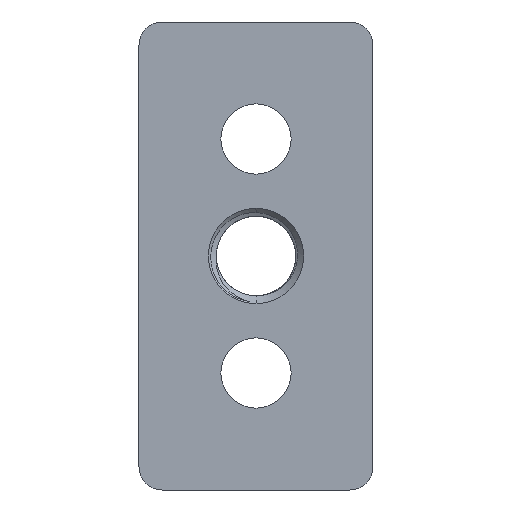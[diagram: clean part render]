
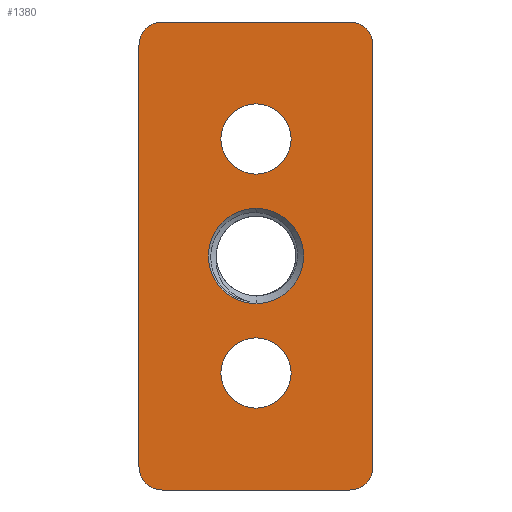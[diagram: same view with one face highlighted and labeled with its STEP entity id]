
A CAD part, front view. The second image highlights one B-rep face of the part: STEP entity #1380.
In plain terms, the highlighted planar face has unit normal (0, -1, 0).
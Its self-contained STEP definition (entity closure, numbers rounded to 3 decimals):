
#52 = CARTESIAN_POINT ( 'NONE',  ( 15., 4., -49.5 ) ) ;
#79 = DIRECTION ( 'NONE',  ( 0., 0., 1. ) ) ;
#310 = CIRCLE ( 'NONE', #1420, 4.5 ) ;
#355 = CARTESIAN_POINT ( 'NONE',  ( 27., 4., -3. ) ) ;
#378 = DIRECTION ( 'NONE',  ( 0., -1., 0. ) ) ;
#391 = VERTEX_POINT ( 'NONE', #4415 ) ;
#402 = PLANE ( 'NONE',  #2009 ) ;
#403 = VERTEX_POINT ( 'NONE', #2282 ) ;
#424 = EDGE_LOOP ( 'NONE', ( #444, #1118 ) ) ;
#444 = ORIENTED_EDGE ( 'NONE', *, *, #782, .T. ) ;
#494 = DIRECTION ( 'NONE',  ( 0., 0., -1. ) ) ;
#505 = CARTESIAN_POINT ( 'NONE',  ( 15., 4., -36.1 ) ) ;
#507 = CARTESIAN_POINT ( 'NONE',  ( 27., 4., -57. ) ) ;
#509 = CARTESIAN_POINT ( 'NONE',  ( 3., 4., -3. ) ) ;
#550 = DIRECTION ( 'NONE',  ( 0., 0., 1. ) ) ;
#582 = ORIENTED_EDGE ( 'NONE', *, *, #1194, .T. ) ;
#669 = CARTESIAN_POINT ( 'NONE',  ( 15., 4., -15. ) ) ;
#728 = DIRECTION ( 'NONE',  ( -1., 0., 0. ) ) ;
#772 = FACE_OUTER_BOUND ( 'NONE', #1529, .T. ) ;
#782 = EDGE_CURVE ( 'NONE', #2196, #1719, #975, .T. ) ;
#866 = VERTEX_POINT ( 'NONE', #1847 ) ;
#868 = DIRECTION ( 'NONE',  ( 0., 0., 1. ) ) ;
#901 = CARTESIAN_POINT ( 'NONE',  ( 0., 4., -57. ) ) ;
#975 = CIRCLE ( 'NONE', #4381, 4.5 ) ;
#1011 = ORIENTED_EDGE ( 'NONE', *, *, #1358, .T. ) ;
#1088 = CARTESIAN_POINT ( 'NONE',  ( 27., 4., -60. ) ) ;
#1095 = VERTEX_POINT ( 'NONE', #901 ) ;
#1118 = ORIENTED_EDGE ( 'NONE', *, *, #3322, .T. ) ;
#1122 = AXIS2_PLACEMENT_3D ( 'NONE', #509, #1207, #4425 ) ;
#1145 = CARTESIAN_POINT ( 'NONE',  ( 0., 4., -3. ) ) ;
#1194 = EDGE_CURVE ( 'NONE', #1095, #4317, #3864, .T. ) ;
#1207 = DIRECTION ( 'NONE',  ( 0., -1., 0. ) ) ;
#1345 = CARTESIAN_POINT ( 'NONE',  ( 0., 4., 0. ) ) ;
#1351 = VECTOR ( 'NONE', #2401, 1000. ) ;
#1358 = EDGE_CURVE ( 'NONE', #4455, #2265, #3340, .T. ) ;
#1380 = ADVANCED_FACE ( 'NONE', ( #1792, #2161, #3581, #772 ), #402, .F. ) ;
#1420 = AXIS2_PLACEMENT_3D ( 'NONE', #2151, #3575, #3296 ) ;
#1465 = ORIENTED_EDGE ( 'NONE', *, *, #4302, .T. ) ;
#1487 = ORIENTED_EDGE ( 'NONE', *, *, #3860, .T. ) ;
#1529 = EDGE_LOOP ( 'NONE', ( #3821, #2499, #4441, #582, #1534, #1465, #3462, #1011 ) ) ;
#1534 = ORIENTED_EDGE ( 'NONE', *, *, #4363, .F. ) ;
#1562 = AXIS2_PLACEMENT_3D ( 'NONE', #3536, #4271, #3257 ) ;
#1571 = AXIS2_PLACEMENT_3D ( 'NONE', #2237, #3628, #2850 ) ;
#1693 = DIRECTION ( 'NONE',  ( 1., 0., 0. ) ) ;
#1703 = LINE ( 'NONE', #4055, #1351 ) ;
#1719 = VERTEX_POINT ( 'NONE', #52 ) ;
#1738 = DIRECTION ( 'NONE',  ( 0., 1., 0. ) ) ;
#1790 = AXIS2_PLACEMENT_3D ( 'NONE', #2606, #3645, #3621 ) ;
#1792 = FACE_BOUND ( 'NONE', #1803, .T. ) ;
#1793 = VERTEX_POINT ( 'NONE', #1088 ) ;
#1803 = EDGE_LOOP ( 'NONE', ( #2418, #1487 ) ) ;
#1819 = CARTESIAN_POINT ( 'NONE',  ( 15., 4., -10.5 ) ) ;
#1847 = CARTESIAN_POINT ( 'NONE',  ( 3., 4., 0. ) ) ;
#1917 = CARTESIAN_POINT ( 'NONE',  ( 3., 4., -60. ) ) ;
#1933 = VECTOR ( 'NONE', #1693, 1000. ) ;
#1937 = CIRCLE ( 'NONE', #4090, 4.5 ) ;
#2009 = AXIS2_PLACEMENT_3D ( 'NONE', #2184, #3603, #79 ) ;
#2015 = CIRCLE ( 'NONE', #1122, 3. ) ;
#2016 = EDGE_CURVE ( 'NONE', #866, #4028, #2015, .T. ) ;
#2017 = CIRCLE ( 'NONE', #4529, 3. ) ;
#2034 = EDGE_LOOP ( 'NONE', ( #2936, #3682 ) ) ;
#2091 = VERTEX_POINT ( 'NONE', #4084 ) ;
#2141 = CARTESIAN_POINT ( 'NONE',  ( 30., 4., -3. ) ) ;
#2151 = CARTESIAN_POINT ( 'NONE',  ( 15., 4., -45. ) ) ;
#2161 = FACE_BOUND ( 'NONE', #424, .T. ) ;
#2184 = CARTESIAN_POINT ( 'NONE',  ( 30., 4., 0. ) ) ;
#2196 = VERTEX_POINT ( 'NONE', #3089 ) ;
#2234 = DIRECTION ( 'NONE',  ( 0., 1., 0. ) ) ;
#2237 = CARTESIAN_POINT ( 'NONE',  ( 15., 4., -30. ) ) ;
#2265 = VERTEX_POINT ( 'NONE', #2549 ) ;
#2282 = CARTESIAN_POINT ( 'NONE',  ( 15., 4., -23.9 ) ) ;
#2401 = DIRECTION ( 'NONE',  ( 0., 0., 1. ) ) ;
#2418 = ORIENTED_EDGE ( 'NONE', *, *, #4410, .T. ) ;
#2472 = CARTESIAN_POINT ( 'NONE',  ( 15., 4., -30. ) ) ;
#2499 = ORIENTED_EDGE ( 'NONE', *, *, #2016, .T. ) ;
#2514 = CARTESIAN_POINT ( 'NONE',  ( 30., 4., -60. ) ) ;
#2519 = EDGE_CURVE ( 'NONE', #4455, #2091, #3675, .T. ) ;
#2536 = DIRECTION ( 'NONE',  ( 0., 0., 1. ) ) ;
#2549 = CARTESIAN_POINT ( 'NONE',  ( 27., 4., 0. ) ) ;
#2606 = CARTESIAN_POINT ( 'NONE',  ( 15., 4., -15. ) ) ;
#2698 = EDGE_CURVE ( 'NONE', #391, #4465, #3350, .T. ) ;
#2838 = DIRECTION ( 'NONE',  ( 0., 0., 1. ) ) ;
#2850 = DIRECTION ( 'NONE',  ( 0., 0., 1. ) ) ;
#2868 = EDGE_CURVE ( 'NONE', #866, #2265, #4220, .T. ) ;
#2889 = DIRECTION ( 'NONE',  ( 0., 1., 0. ) ) ;
#2936 = ORIENTED_EDGE ( 'NONE', *, *, #3044, .T. ) ;
#2982 = CARTESIAN_POINT ( 'NONE',  ( 30., 4., 0. ) ) ;
#3044 = EDGE_CURVE ( 'NONE', #4465, #391, #1937, .T. ) ;
#3089 = CARTESIAN_POINT ( 'NONE',  ( 15., 4., -40.5 ) ) ;
#3205 = VECTOR ( 'NONE', #728, 1000. ) ;
#3257 = DIRECTION ( 'NONE',  ( 0., 0., 1. ) ) ;
#3274 = VECTOR ( 'NONE', #494, 1000. ) ;
#3296 = DIRECTION ( 'NONE',  ( 0., 0., 1. ) ) ;
#3322 = EDGE_CURVE ( 'NONE', #1719, #2196, #310, .T. ) ;
#3340 = CIRCLE ( 'NONE', #4009, 3. ) ;
#3350 = CIRCLE ( 'NONE', #1790, 4.5 ) ;
#3428 = AXIS2_PLACEMENT_3D ( 'NONE', #2472, #2889, #3539 ) ;
#3462 = ORIENTED_EDGE ( 'NONE', *, *, #2519, .F. ) ;
#3500 = CIRCLE ( 'NONE', #3428, 6.1 ) ;
#3536 = CARTESIAN_POINT ( 'NONE',  ( 3., 4., -57. ) ) ;
#3539 = DIRECTION ( 'NONE',  ( 0., 0., 1. ) ) ;
#3575 = DIRECTION ( 'NONE',  ( 0., 1., 0. ) ) ;
#3577 = VERTEX_POINT ( 'NONE', #505 ) ;
#3581 = FACE_BOUND ( 'NONE', #2034, .T. ) ;
#3603 = DIRECTION ( 'NONE',  ( 0., 1., 0. ) ) ;
#3621 = DIRECTION ( 'NONE',  ( 0., 0., 1. ) ) ;
#3626 = CARTESIAN_POINT ( 'NONE',  ( 15., 4., -45. ) ) ;
#3628 = DIRECTION ( 'NONE',  ( 0., 1., 0. ) ) ;
#3645 = DIRECTION ( 'NONE',  ( 0., 1., 0. ) ) ;
#3675 = LINE ( 'NONE', #2982, #3274 ) ;
#3682 = ORIENTED_EDGE ( 'NONE', *, *, #2698, .T. ) ;
#3720 = EDGE_CURVE ( 'NONE', #1095, #4028, #1703, .T. ) ;
#3821 = ORIENTED_EDGE ( 'NONE', *, *, #2868, .F. ) ;
#3860 = EDGE_CURVE ( 'NONE', #403, #3577, #3500, .T. ) ;
#3864 = CIRCLE ( 'NONE', #1562, 3. ) ;
#3929 = LINE ( 'NONE', #2514, #3205 ) ;
#4009 = AXIS2_PLACEMENT_3D ( 'NONE', #355, #378, #2536 ) ;
#4028 = VERTEX_POINT ( 'NONE', #1145 ) ;
#4055 = CARTESIAN_POINT ( 'NONE',  ( 0., 4., -60. ) ) ;
#4057 = DIRECTION ( 'NONE',  ( 0., -1., 0. ) ) ;
#4084 = CARTESIAN_POINT ( 'NONE',  ( 30., 4., -57. ) ) ;
#4090 = AXIS2_PLACEMENT_3D ( 'NONE', #669, #1738, #2838 ) ;
#4220 = LINE ( 'NONE', #1345, #1933 ) ;
#4271 = DIRECTION ( 'NONE',  ( 0., -1., 0. ) ) ;
#4302 = EDGE_CURVE ( 'NONE', #1793, #2091, #2017, .T. ) ;
#4317 = VERTEX_POINT ( 'NONE', #1917 ) ;
#4363 = EDGE_CURVE ( 'NONE', #1793, #4317, #3929, .T. ) ;
#4381 = AXIS2_PLACEMENT_3D ( 'NONE', #3626, #2234, #868 ) ;
#4387 = CIRCLE ( 'NONE', #1571, 6.1 ) ;
#4410 = EDGE_CURVE ( 'NONE', #3577, #403, #4387, .T. ) ;
#4415 = CARTESIAN_POINT ( 'NONE',  ( 15., 4., -19.5 ) ) ;
#4425 = DIRECTION ( 'NONE',  ( 0., 0., 1. ) ) ;
#4441 = ORIENTED_EDGE ( 'NONE', *, *, #3720, .F. ) ;
#4455 = VERTEX_POINT ( 'NONE', #2141 ) ;
#4465 = VERTEX_POINT ( 'NONE', #1819 ) ;
#4529 = AXIS2_PLACEMENT_3D ( 'NONE', #507, #4057, #550 ) ;
